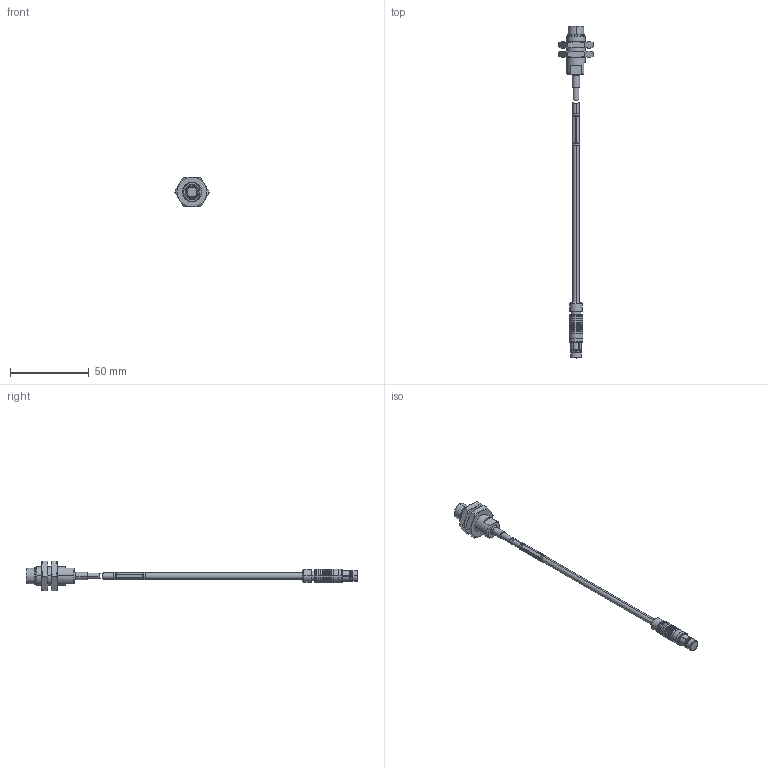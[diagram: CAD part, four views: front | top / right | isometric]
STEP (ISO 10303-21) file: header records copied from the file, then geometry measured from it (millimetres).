
FILE_DESCRIPTION((''),'2;1');
FILE_NAME('0000181044_ASM','2018-08-06T',('11000065'),(''),'CREO PARAMETRIC BY PTC INC, 2018070','CREO PARAMETRIC BY PTC INC, 2018070','');
FILE_SCHEMA(('AUTOMOTIVE_DESIGN { 1 0 10303 214 1 1 1 1 }'));
Length unit declared in the file: millimetre
Products named in the file (4): 0000181064; 0000046188; 0000181487; 0000181044_ASM
Assembly tree (4 placements, depth 2):
  0000181044_ASM
    0000181064
    0000046188  x2
    0000181487
Bounding box: 21.94 x 211.41 x 19 mm (x, y, z)
Volume: 8320.8 mm3; surface area: 7001.9 mm2
Topology: 4 solids, 6 shells, 319 faces, 743 edges, 462 vertices
Faces by surface type: cylinder 118, plane 92, cone 77, torus 28, revolution 4
Entity records: 11972 total; most frequent: CARTESIAN_POINT 2592, DIRECTION 1468, ORIENTED_EDGE 1406, PRESENTATION_STYLE_ASSIGNMENT 719, STYLED_ITEM 706, CURVE_STYLE 703, EDGE_CURVE 703, AXIS2_PLACEMENT_3D 602
